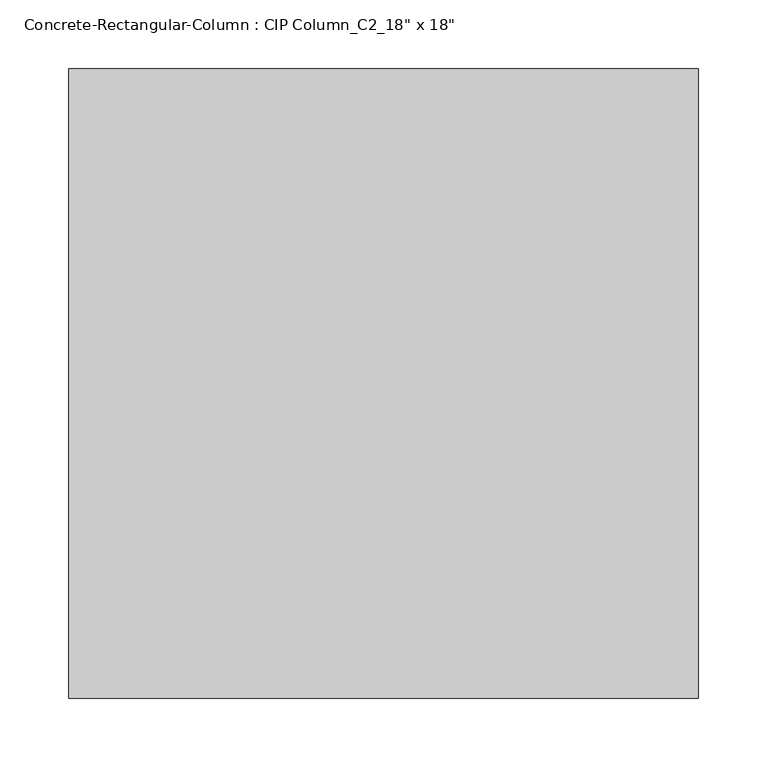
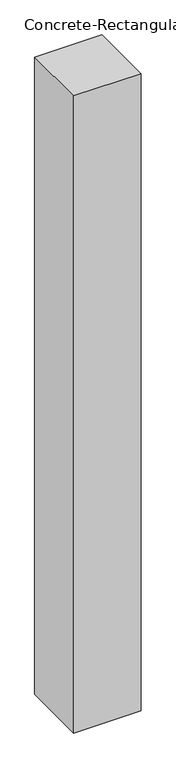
"""IFC4 building model written with IfcOpenShell, lengths in millimetres: column geometry."""

import ifcopenshell
import ifcopenshell.guid

model = None  # the IFC model being written
_history = None  # IfcOwnerHistory: only IFC2X3 demands one
_inside = {}  # id of a spatial element -> (the spatial element, [elements in it])
_under = {}  # id of a project, library or spatial element -> (it, [spatial elements below it])
_declared = {}  # id of a project -> (the project, [libraries it declares])
_typed = {}  # id of a type object -> (the type object, [elements of that type])
_made_of = {}  # id of a material, layer set ... -> (it, [elements and type objects made of it])


def new_model(schema):
    """Start an empty IFC model of exactly this schema.

    Asked for "IFC4X3", IfcOpenShell would pick the latest addendum, in which some entities
    have other attributes; the version numbers below select the first issue.
    IFC2X3 requires an IfcOwnerHistory on every rooted entity: one is made here for all.
    """
    global model, _history
    if schema == "IFC4X3":
        model = ifcopenshell.file(schema_version=(4, 3, 0, 0))
    else:
        model = ifcopenshell.file(schema=schema)
    _inside.clear()
    _under.clear()
    _declared.clear()
    _typed.clear()
    _made_of.clear()
    _history = None
    if model.schema == "IFC2X3":
        org = make("IfcOrganization", Name="unknown")
        user = make(
            "IfcPersonAndOrganization",
            ThePerson=make("IfcPerson", FamilyName="unknown"),
            TheOrganization=org,
        )
        app = make(
            "IfcApplication",
            ApplicationDeveloper=org,
            Version="unknown",
            ApplicationFullName="unknown",
            ApplicationIdentifier="unknown",
        )
        _history = make(
            "IfcOwnerHistory",
            OwningUser=user,
            OwningApplication=app,
            ChangeAction="ADDED",
            CreationDate=0,
        )
    return model


def make(cls, **values):
    """One entity of the class cls with the attributes given. An attribute that is None is left unset."""
    return model.create_entity(
        cls, **{name: value for name, value in values.items() if value is not None}
    )


def rooted(cls, **values):
    """An entity with a GlobalId (a new one), such as an element, a storey or a relation."""
    return make(cls, GlobalId=ifcopenshell.guid.new(), OwnerHistory=_history, **values)


def si_unit(unit_type, name, prefix=None):
    """IfcSIUnit, for example si_unit("LENGTHUNIT", "METRE", prefix="MILLI")."""
    return make("IfcSIUnit", UnitType=unit_type, Prefix=prefix, Name=name)


def assignment(units):
    """IfcUnitAssignment: the units of a project."""
    return None if units is None else make("IfcUnitAssignment", Units=units)


def point(xyz):
    """IfcCartesianPoint."""
    return None if xyz is None else make("IfcCartesianPoint", Coordinates=xyz)


def direction(xyz):
    """IfcDirection."""
    return None if xyz is None else make("IfcDirection", DirectionRatios=xyz)


def frame(location, z_axis=None, x_axis=None):
    """IfcAxis2Placement3D, a coordinate frame: its origin and axes. An axis left out is left unset."""
    return make(
        "IfcAxis2Placement3D",
        Location=point(location),
        Axis=direction(z_axis),
        RefDirection=direction(x_axis),
    )


def origin():
    """The frame at (0, 0, 0) with its axes left unset."""
    return frame((0.0, 0.0, 0.0))


def place(relative_to, where):
    """IfcLocalPlacement: puts the frame where relative to a parent placement (None: the world)."""
    return make(
        "IfcLocalPlacement", PlacementRelTo=relative_to, RelativePlacement=where
    )


def context(
    kind, dimensions, precision=None, world=None, true_north=None, identifier=None
):
    """IfcGeometricRepresentationContext, for example the 3D "Model" context."""
    return make(
        "IfcGeometricRepresentationContext",
        ContextIdentifier=identifier,
        ContextType=kind,
        CoordinateSpaceDimension=dimensions,
        Precision=precision,
        WorldCoordinateSystem=world,
        TrueNorth=true_north,
    )


def project(units=None, contexts=None):
    """IfcProject with its units and contexts."""
    return rooted(
        "IfcProject",
        Name="project",
        RepresentationContexts=contexts,
        UnitsInContext=assignment(units),
    )


def spatial(cls, under=None, at=None, **own):
    """A site, building, storey or space (cls), placed at a placement, below another one or the project."""
    s = rooted(cls, ObjectPlacement=at, **own)
    if under is not None:
        _under.setdefault(under.id(), (under, []))[1].append(s)
    return s


def polyline(points):
    """IfcPolyline through the points."""
    return make("IfcPolyline", Points=[point(p) for p in points])


def outline(outer, holes=None, kind="AREA"):
    """IfcArbitraryClosedProfileDef: a profile drawn as a closed curve; with holes, ...WithVoids."""
    if holes is None:
        return make("IfcArbitraryClosedProfileDef", ProfileType=kind, OuterCurve=outer)
    return make(
        "IfcArbitraryProfileDefWithVoids",
        ProfileType=kind,
        OuterCurve=outer,
        InnerCurves=holes,
    )


def extrude(swept, where, along, depth):
    """IfcExtrudedAreaSolid: the profile swept, set in the frame where, extruded along a direction by depth."""
    return make(
        "IfcExtrudedAreaSolid",
        SweptArea=swept,
        Position=where,
        ExtrudedDirection=direction(along),
        Depth=depth,
    )


def shape(context_of_items, identifier, shape_type, items):
    """IfcShapeRepresentation: the items that make up one representation, for example the "Body"."""
    return make(
        "IfcShapeRepresentation",
        ContextOfItems=context_of_items,
        RepresentationIdentifier=identifier,
        RepresentationType=shape_type,
        Items=items,
    )


def source(mapping_origin, context_of_items, identifier, shape_type, items):
    """IfcRepresentationMap: a shape defined once, which mapped items show again and again."""
    return make(
        "IfcRepresentationMap",
        MappingOrigin=mapping_origin,
        MappedRepresentation=shape(context_of_items, identifier, shape_type, items),
    )


def transform(
    local_origin,
    x_axis=None,
    y_axis=None,
    z_axis=None,
    scale=None,
    scale2=None,
    scale3=None,
    uniform=True,
):
    """IfcCartesianTransformationOperator3D, or its non-uniform kind. x_axis, y_axis, z_axis: its Axis1, 2, 3."""
    if uniform:
        return make(
            "IfcCartesianTransformationOperator3D",
            Axis1=direction(x_axis),
            Axis2=direction(y_axis),
            LocalOrigin=point(local_origin),
            Scale=scale,
            Axis3=direction(z_axis),
        )
    return make(
        "IfcCartesianTransformationOperator3DnonUniform",
        Axis1=direction(x_axis),
        Axis2=direction(y_axis),
        LocalOrigin=point(local_origin),
        Scale=scale,
        Axis3=direction(z_axis),
        Scale2=scale2,
        Scale3=scale3,
    )


def mapped(mapping_source, mapping_target):
    """IfcMappedItem: shows the shape of a source again, moved by a transform."""
    return make(
        "IfcMappedItem", MappingSource=mapping_source, MappingTarget=mapping_target
    )


def made_of(thing, what):
    """Note that an element or type object is made of a material, layer set ...; save() writes the relation."""
    if what is not None:
        _made_of.setdefault(what.id(), (what, []))[1].append(thing)
    return thing


def element(
    cls,
    number,
    at=None,
    inside=None,
    cuts=None,
    type_object=None,
    material=None,
    context=None,
    identifier="Body",
    shape_type=None,
    held_by="IfcProductDefinitionShape",
    body=None,
    shapes=None,
    **own,
):
    """One element of the class cls, such as IfcWall. Its Tag is "e" and its number.

    at: its placement. inside: the storey or other place that contains it. cuts: it is an
    opening in that element (IfcRelVoidsElement). A single representation is given by context,
    identifier, shape_type and body (its items); several are given by shapes. held_by: the class
    of the entity that holds the representations. save() writes the other relations.
    """
    e = rooted(cls, Tag="e%d" % number, ObjectPlacement=at, **own)
    if body is not None:
        shapes = [shape(context, identifier, shape_type, body)]
    if shapes is not None:
        e.Representation = make(held_by, Representations=shapes)
    if inside is not None:
        _inside.setdefault(inside.id(), (inside, []))[1].append(e)
    if cuts is not None:
        rooted(
            "IfcRelVoidsElement", RelatingBuildingElement=cuts, RelatedOpeningElement=e
        )
    if type_object is not None:
        _typed.setdefault(type_object.id(), (type_object, []))[1].append(e)
    return made_of(e, material)


def aggregate(whole, parts):
    """IfcRelAggregates: a whole, such as a stair, and the parts it consists of."""
    return rooted("IfcRelAggregates", RelatingObject=whole, RelatedObjects=parts)


def save(model, path):
    """Write the relations noted so far, then the file.

    IfcRelAggregates (storeys below a building ...), IfcRelContainedInSpatialStructure (elements
    in a storey), IfcRelDefinesByType, IfcRelAssociatesMaterial and IfcRelDeclares: one each for
    every whole, place, type object, material and project.
    """
    for whole, parts in _under.values():
        aggregate(whole, parts)
    for where, things in _inside.values():
        rooted(
            "IfcRelContainedInSpatialStructure",
            RelatedElements=things,
            RelatingStructure=where,
        )
    for kind, things in _typed.values():
        rooted("IfcRelDefinesByType", RelatedObjects=things, RelatingType=kind)
    for what, things in _made_of.values():
        rooted("IfcRelAssociatesMaterial", RelatedObjects=things, RelatingMaterial=what)
    for by, libraries in _declared.values():
        rooted("IfcRelDeclares", RelatingContext=by, RelatedDefinitions=libraries)
    model.write(path)


def column_4a50855d(model_context):
    return source(origin(), model_context, "Body", "SweptSolid", [
        extrude(outline(polyline([(228.6, 228.6), (228.6, -228.6), (-228.6, -228.6), (-228.6, 228.6), (228.6, 228.6)])), frame((0.0, 0.0, 4445.0), z_axis=(0.0, 0.0, 1.0), x_axis=(1.0, 0.0, 0.0)), (0.0, 0.0, 1.0), 4572.0),
    ])


if __name__ == "__main__":
    model = new_model("IFC4")
    model_context = context("Model", 3, world=origin())
    ifc_project = project(units=[si_unit("LENGTHUNIT", "METRE", prefix="MILLI")], contexts=[model_context])
    site = spatial("IfcSite", under=ifc_project)
    building = spatial("IfcBuilding", under=site)
    placement = place(None, origin())
    column_shape = column_4a50855d(model_context)
    element("IfcColumn", 1, ObjectType="Concrete-Rectangular-Column : CIP Column_C2_18\" x 18\"", at=placement, inside=building, context=model_context, shape_type="MappedRepresentation", body=[
        mapped(column_shape, transform((0.0, 0.0, 0.0), x_axis=(1.0, 0.0, 0.0), y_axis=(0.0, 1.0, 0.0), z_axis=(0.0, 0.0, 1.0))),
    ])
    save(model, "model.ifc")
